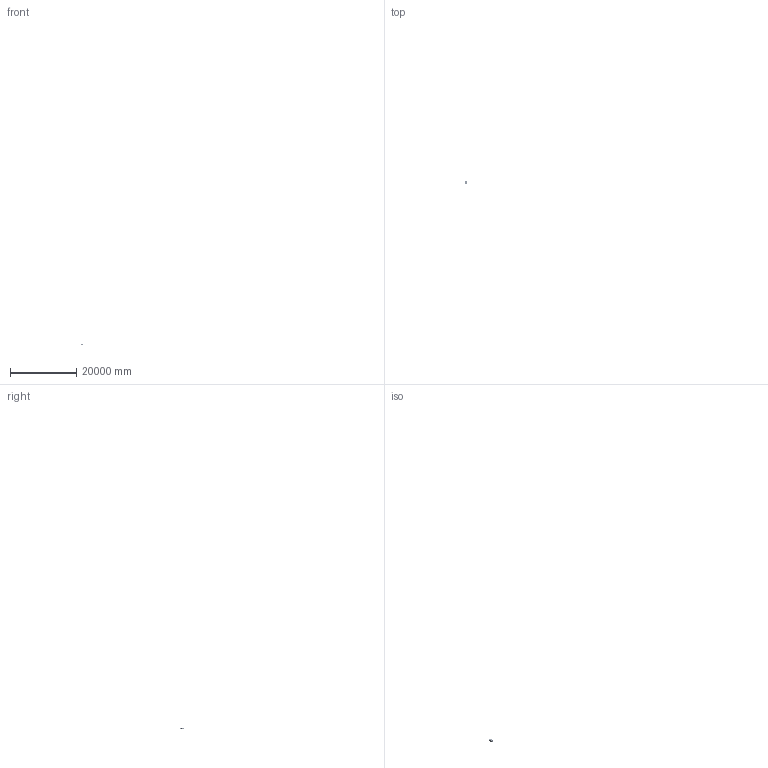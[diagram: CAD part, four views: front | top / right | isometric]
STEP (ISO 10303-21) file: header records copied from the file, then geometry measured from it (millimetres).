
FILE_DESCRIPTION (( 'STEP AP203' ), '1' );
FILE_NAME ('机械臂防爆正压柜.STEP', '2026-06-07T14:53:28', ( '' ), ( '' ), 'SwSTEP 2.0', 'SolidWorks 2018', '' );
FILE_SCHEMA (( 'CONFIG_CONTROL_DESIGN' ));
Length unit declared in the file: millimetre
Products named in the file (66): 狟裔; 翋諷秶ん; M32沓蹋滲; 裂遠蹟邡12; 1-1-2眻褒俔諉; 萇埭羲壽; ADJUSTINGBLOCK_C-FMJ40-N; hex nuts, style 1-grades ab gb_GB_FASTENER_NUT_SNAB1 M6-N; G1-2球阀; 单压式防爆填料函G1-2; M16沓蹋滲; 辦脣諉芛; G1-2囀佪俔芛; 奻萇偌聽; weld studs for manual welding gb_GB_FASTENER_BOLT_WSMWB A M8X35-N; plain washers for clevis pins gb_GB_ROUND_WASHERS_TYPE7 6; M40沓蹋滲; 劑腑援盄奪; 埥啻坶; 諷秶ん眊; _________2^1747122938370.step; G1-2眻諉; 劑腑; 萇擢欶; M25沓蹋滲; 气动三联件; SUPPORT_C-FMJ40-N; 机械臂防爆正压柜; 滅惇萇棠概; M6爾諉蹟翐; 滅惇淏揤嶄; 換覜ん; hexagon socket head cap screws gb_GB_FASTENER_SCREWS_HSHCS M4X8-N; 錨璃4^軞蚾极; 誹霜概盓殤; 奻裔; 眊极1; 翋儂假蚾啣; 礿砦偌聽; A147^2017084595258499072.step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
Assembly tree (209 placements, depth 4):
  机械臂防爆正压柜
    眊极1
    眊极4
    萇擢欶
    誹霜概盓殤
    劑腑
    諷秶ん眊
    齬ァ概盓殤  x2
    翋儂假蚾啣
    奻裔
    諷秶ん眊情臚
    狟裔
    DMTR-T1-A-L147
      DMTR-T1-A-L147.step
        A147^2017084595258499072.step
    埥啻坶  x2
    ゐ雄偌聽
    奻萇偌聽
    礿砦偌聽
    摹礿羲壽
    M16沓蹋滲  x13
    M25沓蹋滲  x6
    M32沓蹋滲  x2
    辦脣諉芛  x14
    M40沓蹋滲
    单压式防爆填料函G1-2  x12
    单压式防爆填料函G3-4  x5
    滅惇淏揤嶄
    气动三联件
    G1-2眻諉  x8
    G1-2囀佪俔芛  x2
    G1-2球阀
    G1-2内丝三通
    G1-2囀佪眻諉  x2
    滅惇萇棠概  x2
    翋諷秶ん
    裂遠蹟邡12  x2
      EDHF-C1D-M12.step
        _________1^1747122938370.step
        _________2^1747122938370.step
    C-FMJ40-N  x4
      TOPPLATE_C-FMJ40-N
      BODY_C-FMJ40-N
      WHEEL_C-FMJ40-N
      CONNECTOR_C-FMJ40-N
      ADJUSTINGBLOCK_C-FMJ40-N
      NAT_C-FMJ40-N
      NEZI_C-FMJ40-N
      SUPPORT_C-FMJ40-N
    萇埭羲壽
    1-1-2眻褒俔諉
    劑腑援盄奪
    換覜ん
    hexagon socket head cap screws gb_GB_FASTENER_SCREWS_HSHCS M6X12-N  x22
    hexagon socket head cap screws gb_GB_FASTENER_SCREWS_HSHCS M8X20-N  x13
    weld studs for manual welding gb_GB_FASTENER_BOLT_WSMWB A M8X35-N  x8
    plain washers--product grade c gb_GB_FASTENER_WASHER_SMWC 8  x8
    curved single coil spring lock washers gb_GB_FASTENER_WASHER_CSLW 8  x8
    hex nuts, style 1-grades ab gb_GB_FASTENER_NUT_SNAB1 M8-N  x8
    M6爾諉蹟翐  x6
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Bounding box: 67073.42 x 7461.73 x 92352.97 mm (x, y, z)
Volume: 18926702.2 mm3; surface area: 10597467.9 mm2
Topology: 352 solids, 364 shells, 27100 faces, 70982 edges, 45364 vertices
Faces by surface type: plane 15060, cylinder 7054, bspline 2666, cone 1607, torus 593, sphere 120
Entity records: 1074085 total; most frequent: CARTESIAN_POINT 531246, ORIENTED_EDGE 117908, DIRECTION 100528, EDGE_CURVE 58958, VERTEX_POINT 38103, LINE 37130, VECTOR 37130, AXIS2_PLACEMENT_3D 31699
